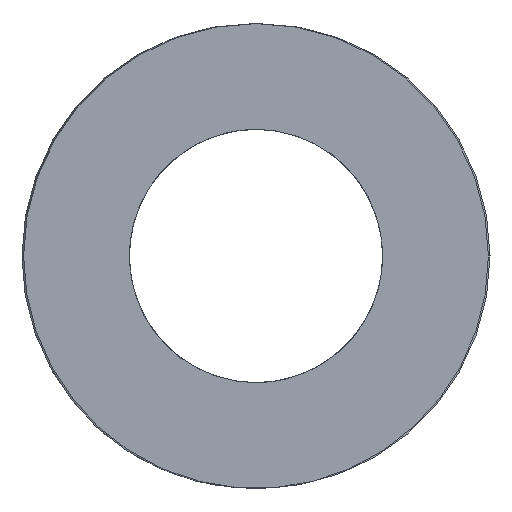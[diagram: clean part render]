
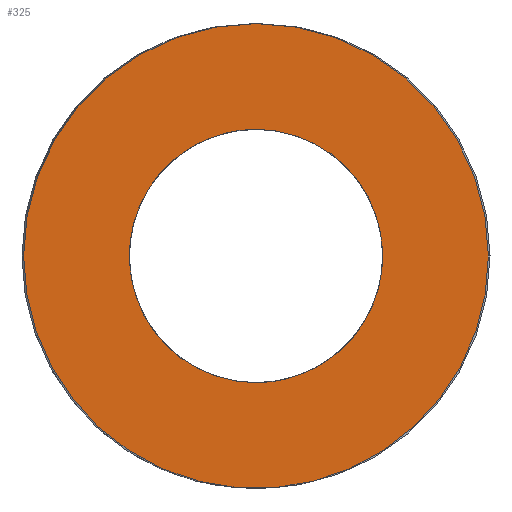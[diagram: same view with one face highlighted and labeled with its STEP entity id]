
A CAD part, left-side view. The second image highlights one B-rep face of the part: STEP entity #325.
In plain terms, the highlighted planar face has unit normal (-1, 0, 0).
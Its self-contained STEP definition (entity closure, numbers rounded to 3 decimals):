
#63=CARTESIAN_POINT('Vertex',(0.,24.4,0.)) ;
#89=CARTESIAN_POINT('Vertex',(0.,-24.4,0.)) ;
#93=CARTESIAN_POINT('Control Point',(0.,24.4,0.)) ;
#94=CARTESIAN_POINT('Control Point',(0.,24.4,-3.833)) ;
#95=CARTESIAN_POINT('Control Point',(0.,23.647,-7.665)) ;
#96=CARTESIAN_POINT('Control Point',(0.,22.142,-11.301)) ;
#97=CARTESIAN_POINT('Control Point',(0.,17.786,-17.786)) ;
#98=CARTESIAN_POINT('Control Point',(0.,11.301,-22.142)) ;
#99=CARTESIAN_POINT('Control Point',(0.,7.665,-23.647)) ;
#100=CARTESIAN_POINT('Control Point',(0.,0.,-25.153)) ;
#101=CARTESIAN_POINT('Control Point',(0.,-7.665,-23.647)) ;
#102=CARTESIAN_POINT('Control Point',(0.,-11.301,-22.142)) ;
#103=CARTESIAN_POINT('Control Point',(0.,-17.786,-17.786)) ;
#104=CARTESIAN_POINT('Control Point',(0.,-22.142,-11.301)) ;
#105=CARTESIAN_POINT('Control Point',(0.,-23.647,-7.665)) ;
#106=CARTESIAN_POINT('Control Point',(0.,-24.4,-3.833)) ;
#107=CARTESIAN_POINT('Control Point',(0.,-24.4,0.)) ;
#121=CARTESIAN_POINT('Axis2P3D Location',(0.,0.,0.)) ;
#256=CARTESIAN_POINT('Axis2P3D Location',(0.,12.2,0.)) ;
#266=CARTESIAN_POINT('Control Point',(0.,0.,-13.3)) ;
#267=CARTESIAN_POINT('Control Point',(0.,1.251,-13.3)) ;
#268=CARTESIAN_POINT('Control Point',(0.,2.501,-13.153)) ;
#269=CARTESIAN_POINT('Control Point',(0.,3.729,-12.859)) ;
#270=CARTESIAN_POINT('Control Point',(0.,6.092,-11.988)) ;
#271=CARTESIAN_POINT('Control Point',(0.,8.189,-10.593)) ;
#272=CARTESIAN_POINT('Control Point',(0.,9.15,-9.774)) ;
#273=CARTESIAN_POINT('Control Point',(0.,10.862,-7.927)) ;
#274=CARTESIAN_POINT('Control Point',(0.,12.099,-5.734)) ;
#275=CARTESIAN_POINT('Control Point',(0.,12.585,-4.569)) ;
#276=CARTESIAN_POINT('Control Point',(0.,13.275,-2.146)) ;
#277=CARTESIAN_POINT('Control Point',(0.,13.384,0.37)) ;
#278=CARTESIAN_POINT('Control Point',(0.,13.289,1.628)) ;
#279=CARTESIAN_POINT('Control Point',(0.,12.807,4.1)) ;
#280=CARTESIAN_POINT('Control Point',(0.,11.764,6.393)) ;
#281=CARTESIAN_POINT('Control Point',(0.,11.11,7.472)) ;
#282=CARTESIAN_POINT('Control Point',(0.,9.56,9.457)) ;
#283=CARTESIAN_POINT('Control Point',(0.,7.591,11.029)) ;
#284=CARTESIAN_POINT('Control Point',(0.,6.519,11.694)) ;
#285=CARTESIAN_POINT('Control Point',(0.,4.601,12.592)) ;
#286=CARTESIAN_POINT('Control Point',(0.,2.551,13.095)) ;
#287=CARTESIAN_POINT('Control Point',(0.,1.706,13.232)) ;
#288=CARTESIAN_POINT('Control Point',(0.,0.853,13.3)) ;
#289=CARTESIAN_POINT('Control Point',(0.,0.,13.3)) ;
#290=CARTESIAN_POINT('Vertex',(0.,0.,-13.3)) ;
#292=CARTESIAN_POINT('Vertex',(0.,0.,13.3)) ;
#296=CARTESIAN_POINT('Control Point',(0.,0.,13.3)) ;
#297=CARTESIAN_POINT('Control Point',(0.,-1.251,13.3)) ;
#298=CARTESIAN_POINT('Control Point',(0.,-2.501,13.153)) ;
#299=CARTESIAN_POINT('Control Point',(0.,-3.729,12.859)) ;
#300=CARTESIAN_POINT('Control Point',(0.,-6.092,11.988)) ;
#301=CARTESIAN_POINT('Control Point',(0.,-8.189,10.593)) ;
#302=CARTESIAN_POINT('Control Point',(0.,-9.15,9.774)) ;
#303=CARTESIAN_POINT('Control Point',(0.,-10.862,7.927)) ;
#304=CARTESIAN_POINT('Control Point',(0.,-12.099,5.734)) ;
#305=CARTESIAN_POINT('Control Point',(0.,-12.585,4.569)) ;
#306=CARTESIAN_POINT('Control Point',(0.,-13.275,2.146)) ;
#307=CARTESIAN_POINT('Control Point',(0.,-13.384,-0.37)) ;
#308=CARTESIAN_POINT('Control Point',(0.,-13.289,-1.628)) ;
#309=CARTESIAN_POINT('Control Point',(0.,-12.807,-4.1)) ;
#310=CARTESIAN_POINT('Control Point',(0.,-11.764,-6.393)) ;
#311=CARTESIAN_POINT('Control Point',(0.,-11.11,-7.472)) ;
#312=CARTESIAN_POINT('Control Point',(0.,-9.56,-9.457)) ;
#313=CARTESIAN_POINT('Control Point',(0.,-7.591,-11.029)) ;
#314=CARTESIAN_POINT('Control Point',(0.,-6.519,-11.694)) ;
#315=CARTESIAN_POINT('Control Point',(0.,-4.601,-12.592)) ;
#316=CARTESIAN_POINT('Control Point',(0.,-2.551,-13.095)) ;
#317=CARTESIAN_POINT('Control Point',(0.,-1.706,-13.232)) ;
#318=CARTESIAN_POINT('Control Point',(0.,-0.853,-13.3)) ;
#319=CARTESIAN_POINT('Control Point',(0.,0.,-13.3)) ;
#122=DIRECTION('Axis2P3D Direction',(1.,-0.,0.)) ;
#257=DIRECTION('Axis2P3D Direction',(-1.,0.,0.)) ;
#258=DIRECTION('Axis2P3D XDirection',(0.,1.,0.)) ;
#123=AXIS2_PLACEMENT_3D('Circle Axis2P3D',#121,#122,$) ;
#259=AXIS2_PLACEMENT_3D('Plane Axis2P3D',#256,#257,#258) ;
#262=ORIENTED_EDGE('',*,*,#108,.T.) ;
#263=ORIENTED_EDGE('',*,*,#125,.T.) ;
#322=ORIENTED_EDGE('',*,*,#294,.T.) ;
#323=ORIENTED_EDGE('',*,*,#320,.T.) ;
#324=FACE_BOUND('',#321,.T.) ;
#325=ADVANCED_FACE('392-B50-152',(#264,#324),#260,.T.) ;
#92=B_SPLINE_CURVE_WITH_KNOTS('',5,(#93,#94,#95,#96,#97,#98,#99,#100,#101,#102,#103,#104,#105,#106,#107),.UNSPECIFIED.,.F.,.U.,(6,3,3,3,6),(-38.327,-19.164,0.,19.164,38.327),.UNSPECIFIED.) ;
#265=B_SPLINE_CURVE_WITH_KNOTS('',5,(#266,#267,#268,#269,#270,#271,#272,#273,#274,#275,#276,#277,#278,#279,#280,#281,#282,#283,#284,#285,#286,#287,#288,#289),.UNSPECIFIED.,.F.,.U.,(6,3,3,3,3,3,3,6),(0.,8.843,17.686,26.53,35.373,44.216,53.059,59.09),.UNSPECIFIED.) ;
#295=B_SPLINE_CURVE_WITH_KNOTS('',5,(#296,#297,#298,#299,#300,#301,#302,#303,#304,#305,#306,#307,#308,#309,#310,#311,#312,#313,#314,#315,#316,#317,#318,#319),.UNSPECIFIED.,.F.,.U.,(6,3,3,3,3,3,3,6),(0.,8.843,17.686,26.53,35.373,44.216,53.059,59.09),.UNSPECIFIED.) ;
#124=CIRCLE('generated circle',#123,24.4) ;
#108=EDGE_CURVE('',#64,#90,#92,.T.) ;
#125=EDGE_CURVE('',#90,#64,#124,.F.) ;
#294=EDGE_CURVE('',#291,#293,#265,.T.) ;
#320=EDGE_CURVE('',#293,#291,#295,.T.) ;
#261=EDGE_LOOP('',(#262,#263)) ;
#321=EDGE_LOOP('',(#322,#323)) ;
#264=FACE_OUTER_BOUND('',#261,.T.) ;
#260=PLANE('Plane',#259) ;
#64=VERTEX_POINT('',#63) ;
#90=VERTEX_POINT('',#89) ;
#291=VERTEX_POINT('',#290) ;
#293=VERTEX_POINT('',#292) ;
